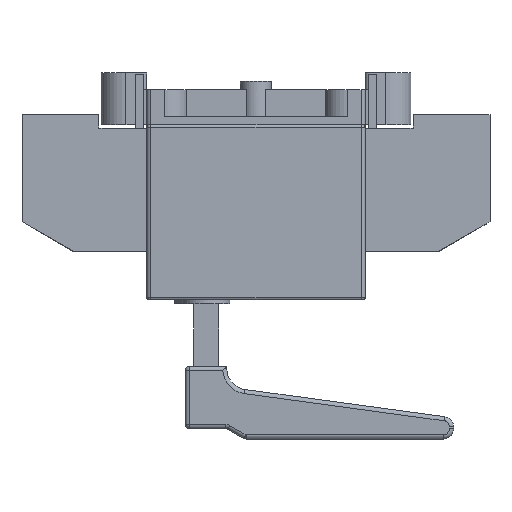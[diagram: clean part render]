
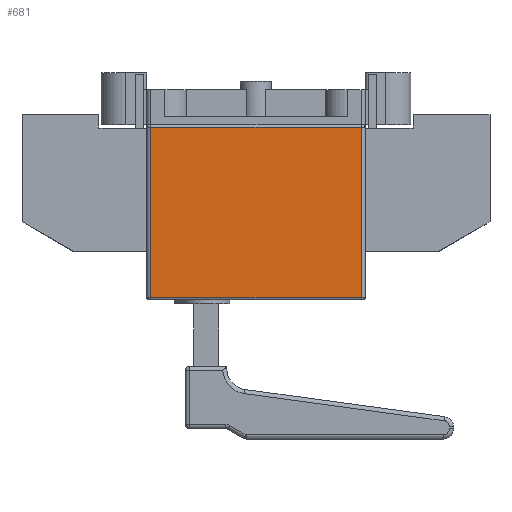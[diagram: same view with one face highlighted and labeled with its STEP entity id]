
A CAD part, left-side view. The second image highlights one B-rep face of the part: STEP entity #681.
In plain terms, the highlighted planar face has unit normal (-1, 0, 0).
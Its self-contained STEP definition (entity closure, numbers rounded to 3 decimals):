
#258=FACE_OUTER_BOUND('',#1636,.T.);
#681=ADVANCED_FACE('',(#258),#1110,.F.);
#1110=PLANE('',#8932);
#1636=EDGE_LOOP('',(#2938,#2939,#2940,#2941));
#2938=ORIENTED_EDGE('',*,*,#6017,.T.);
#2939=ORIENTED_EDGE('',*,*,#6018,.T.);
#2940=ORIENTED_EDGE('',*,*,#6014,.F.);
#2941=ORIENTED_EDGE('',*,*,#6019,.T.);
#5128=VERTEX_POINT('',#12744);
#5129=VERTEX_POINT('',#12745);
#5130=VERTEX_POINT('',#12750);
#5131=VERTEX_POINT('',#12751);
#6014=EDGE_CURVE('',#5128,#5129,#7108,.T.);
#6017=EDGE_CURVE('',#5130,#5131,#7109,.T.);
#6018=EDGE_CURVE('',#5131,#5129,#7110,.T.);
#6019=EDGE_CURVE('',#5128,#5130,#7111,.T.);
#7108=LINE('',#12743,#8029);
#7109=LINE('',#12749,#8030);
#7110=LINE('',#12752,#8031);
#7111=LINE('',#12753,#8032);
#8029=VECTOR('',#10167,1.);
#8030=VECTOR('',#10174,1.);
#8031=VECTOR('',#10175,1.);
#8032=VECTOR('',#10176,1.);
#8932=AXIS2_PLACEMENT_3D('',#12754,#10177,#10178);
#10167=DIRECTION('',(0.,0.,1.));
#10174=DIRECTION('',(0.,0.,1.));
#10175=DIRECTION('',(0.,1.,0.));
#10176=DIRECTION('',(0.,-1.,0.));
#10177=DIRECTION('',(1.,0.,0.));
#10178=DIRECTION('',(0.,1.,0.));
#12743=CARTESIAN_POINT('',(-197.5,50.5,-84.));
#12744=CARTESIAN_POINT('',(-197.5,50.5,-83.));
#12745=CARTESIAN_POINT('',(-197.5,50.5,-1.));
#12749=CARTESIAN_POINT('',(-197.5,-50.5,-84.));
#12750=CARTESIAN_POINT('',(-197.5,-50.5,-83.));
#12751=CARTESIAN_POINT('',(-197.5,-50.5,-1.));
#12752=CARTESIAN_POINT('',(-197.5,-50.5,-1.));
#12753=CARTESIAN_POINT('',(-197.5,-50.5,-83.));
#12754=CARTESIAN_POINT('',(-197.5,-50.5,-84.));
